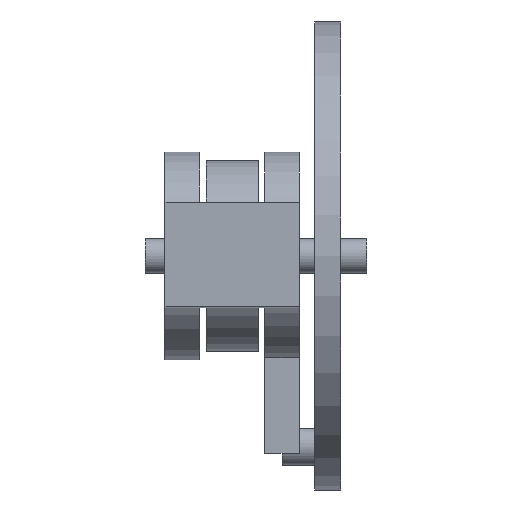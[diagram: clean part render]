
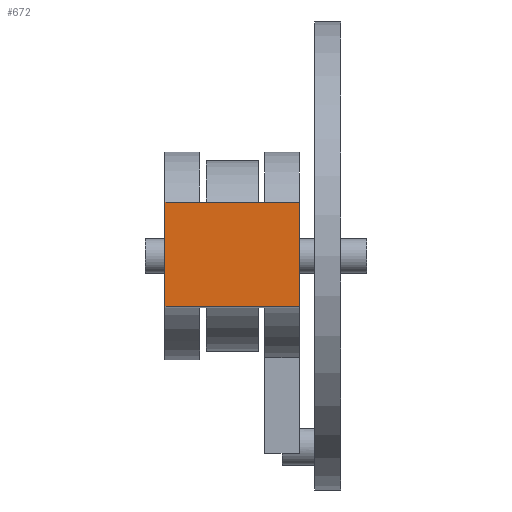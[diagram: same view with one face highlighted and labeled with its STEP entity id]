
A CAD part, top view. The second image highlights one B-rep face of the part: STEP entity #672.
In plain terms, the highlighted planar face has unit normal (0, 0, 1).
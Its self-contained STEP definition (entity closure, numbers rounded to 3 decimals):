
#337 = PLANE('',#338);
#338 = AXIS2_PLACEMENT_3D('',#339,#340,#341);
#339 = CARTESIAN_POINT('',(-15.5,-12.,58.));
#340 = DIRECTION('',(1.,0.,0.));
#341 = DIRECTION('',(0.,0.,1.));
#365 = PLANE('',#366);
#366 = AXIS2_PLACEMENT_3D('',#367,#368,#369);
#367 = CARTESIAN_POINT('',(-15.5,-12.,58.));
#368 = DIRECTION('',(0.,1.,0.));
#369 = DIRECTION('',(0.,0.,1.));
#393 = PLANE('',#394);
#394 = AXIS2_PLACEMENT_3D('',#395,#396,#397);
#395 = CARTESIAN_POINT('',(15.5,0.,0.));
#396 = DIRECTION('',(1.,0.,0.));
#397 = DIRECTION('',(-0.,0.,1.));
#485 = PLANE('',#486);
#486 = AXIS2_PLACEMENT_3D('',#487,#488,#489);
#487 = CARTESIAN_POINT('',(-15.5,12.,58.));
#488 = DIRECTION('',(0.,1.,0.));
#489 = DIRECTION('',(0.,0.,1.));
#602 = VERTEX_POINT('',#603);
#603 = CARTESIAN_POINT('',(-15.5,-12.,220.));
#624 = EDGE_CURVE('',#602,#625,#627,.T.);
#625 = VERTEX_POINT('',#626);
#626 = CARTESIAN_POINT('',(15.5,-12.,220.));
#627 = SURFACE_CURVE('',#628,(#632,#639),.PCURVE_S1.);
#628 = LINE('',#629,#630);
#629 = CARTESIAN_POINT('',(-15.5,-12.,220.));
#630 = VECTOR('',#631,1.);
#631 = DIRECTION('',(1.,0.,0.));
#632 = PCURVE('',#365,#633);
#633 = DEFINITIONAL_REPRESENTATION('',(#634),#638);
#634 = LINE('',#635,#636);
#635 = CARTESIAN_POINT('',(162.,0.));
#636 = VECTOR('',#637,1.);
#637 = DIRECTION('',(0.,1.));
#638 = ( GEOMETRIC_REPRESENTATION_CONTEXT(2) 
PARAMETRIC_REPRESENTATION_CONTEXT() REPRESENTATION_CONTEXT('2D SPACE',''
  ) );
#639 = PCURVE('',#640,#645);
#640 = PLANE('',#641);
#641 = AXIS2_PLACEMENT_3D('',#642,#643,#644);
#642 = CARTESIAN_POINT('',(-15.5,-12.,220.));
#643 = DIRECTION('',(0.,0.,1.));
#644 = DIRECTION('',(1.,0.,0.));
#645 = DEFINITIONAL_REPRESENTATION('',(#646),#650);
#646 = LINE('',#647,#648);
#647 = CARTESIAN_POINT('',(0.,0.));
#648 = VECTOR('',#649,1.);
#649 = DIRECTION('',(1.,0.));
#650 = ( GEOMETRIC_REPRESENTATION_CONTEXT(2) 
PARAMETRIC_REPRESENTATION_CONTEXT() REPRESENTATION_CONTEXT('2D SPACE',''
  ) );
#672 = ADVANCED_FACE('',(#673),#640,.T.);
#673 = FACE_BOUND('',#674,.T.);
#674 = EDGE_LOOP('',(#675,#698,#699,#722));
#675 = ORIENTED_EDGE('',*,*,#676,.F.);
#676 = EDGE_CURVE('',#602,#677,#679,.T.);
#677 = VERTEX_POINT('',#678);
#678 = CARTESIAN_POINT('',(-15.5,12.,220.));
#679 = SURFACE_CURVE('',#680,(#684,#691),.PCURVE_S1.);
#680 = LINE('',#681,#682);
#681 = CARTESIAN_POINT('',(-15.5,-12.,220.));
#682 = VECTOR('',#683,1.);
#683 = DIRECTION('',(0.,1.,0.));
#684 = PCURVE('',#640,#685);
#685 = DEFINITIONAL_REPRESENTATION('',(#686),#690);
#686 = LINE('',#687,#688);
#687 = CARTESIAN_POINT('',(0.,0.));
#688 = VECTOR('',#689,1.);
#689 = DIRECTION('',(0.,1.));
#690 = ( GEOMETRIC_REPRESENTATION_CONTEXT(2) 
PARAMETRIC_REPRESENTATION_CONTEXT() REPRESENTATION_CONTEXT('2D SPACE',''
  ) );
#691 = PCURVE('',#337,#692);
#692 = DEFINITIONAL_REPRESENTATION('',(#693),#697);
#693 = LINE('',#694,#695);
#694 = CARTESIAN_POINT('',(162.,0.));
#695 = VECTOR('',#696,1.);
#696 = DIRECTION('',(0.,-1.));
#697 = ( GEOMETRIC_REPRESENTATION_CONTEXT(2) 
PARAMETRIC_REPRESENTATION_CONTEXT() REPRESENTATION_CONTEXT('2D SPACE',''
  ) );
#698 = ORIENTED_EDGE('',*,*,#624,.T.);
#699 = ORIENTED_EDGE('',*,*,#700,.T.);
#700 = EDGE_CURVE('',#625,#701,#703,.T.);
#701 = VERTEX_POINT('',#702);
#702 = CARTESIAN_POINT('',(15.5,12.,220.));
#703 = SURFACE_CURVE('',#704,(#708,#715),.PCURVE_S1.);
#704 = LINE('',#705,#706);
#705 = CARTESIAN_POINT('',(15.5,-12.,220.));
#706 = VECTOR('',#707,1.);
#707 = DIRECTION('',(0.,1.,0.));
#708 = PCURVE('',#640,#709);
#709 = DEFINITIONAL_REPRESENTATION('',(#710),#714);
#710 = LINE('',#711,#712);
#711 = CARTESIAN_POINT('',(31.,0.));
#712 = VECTOR('',#713,1.);
#713 = DIRECTION('',(0.,1.));
#714 = ( GEOMETRIC_REPRESENTATION_CONTEXT(2) 
PARAMETRIC_REPRESENTATION_CONTEXT() REPRESENTATION_CONTEXT('2D SPACE',''
  ) );
#715 = PCURVE('',#393,#716);
#716 = DEFINITIONAL_REPRESENTATION('',(#717),#721);
#717 = LINE('',#718,#719);
#718 = CARTESIAN_POINT('',(220.,12.));
#719 = VECTOR('',#720,1.);
#720 = DIRECTION('',(0.,-1.));
#721 = ( GEOMETRIC_REPRESENTATION_CONTEXT(2) 
PARAMETRIC_REPRESENTATION_CONTEXT() REPRESENTATION_CONTEXT('2D SPACE',''
  ) );
#722 = ORIENTED_EDGE('',*,*,#723,.F.);
#723 = EDGE_CURVE('',#677,#701,#724,.T.);
#724 = SURFACE_CURVE('',#725,(#729,#736),.PCURVE_S1.);
#725 = LINE('',#726,#727);
#726 = CARTESIAN_POINT('',(-15.5,12.,220.));
#727 = VECTOR('',#728,1.);
#728 = DIRECTION('',(1.,0.,0.));
#729 = PCURVE('',#640,#730);
#730 = DEFINITIONAL_REPRESENTATION('',(#731),#735);
#731 = LINE('',#732,#733);
#732 = CARTESIAN_POINT('',(0.,24.));
#733 = VECTOR('',#734,1.);
#734 = DIRECTION('',(1.,0.));
#735 = ( GEOMETRIC_REPRESENTATION_CONTEXT(2) 
PARAMETRIC_REPRESENTATION_CONTEXT() REPRESENTATION_CONTEXT('2D SPACE',''
  ) );
#736 = PCURVE('',#485,#737);
#737 = DEFINITIONAL_REPRESENTATION('',(#738),#742);
#738 = LINE('',#739,#740);
#739 = CARTESIAN_POINT('',(162.,0.));
#740 = VECTOR('',#741,1.);
#741 = DIRECTION('',(0.,1.));
#742 = ( GEOMETRIC_REPRESENTATION_CONTEXT(2) 
PARAMETRIC_REPRESENTATION_CONTEXT() REPRESENTATION_CONTEXT('2D SPACE',''
  ) );
